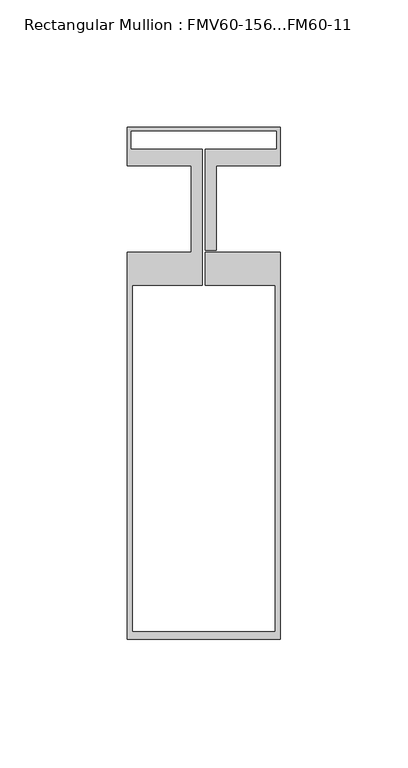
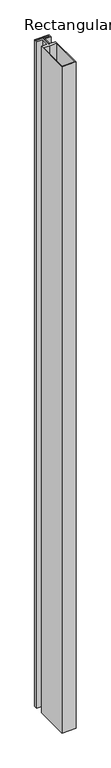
"""IFC4 building model written with IfcOpenShell, lengths in millimetres: member geometry, Rectangular Mullion : FMV60-156...FM60-11."""

import ifcopenshell
import ifcopenshell.guid

model = None  # the IFC model being written
_history = None  # IfcOwnerHistory: only IFC2X3 demands one
_inside = {}  # id of a spatial element -> (the spatial element, [elements in it])
_under = {}  # id of a project, library or spatial element -> (it, [spatial elements below it])
_declared = {}  # id of a project -> (the project, [libraries it declares])
_typed = {}  # id of a type object -> (the type object, [elements of that type])
_made_of = {}  # id of a material, layer set ... -> (it, [elements and type objects made of it])


def new_model(schema):
    """Start an empty IFC model of exactly this schema.

    Asked for "IFC4X3", IfcOpenShell would pick the latest addendum, in which some entities
    have other attributes; the version numbers below select the first issue.
    IFC2X3 requires an IfcOwnerHistory on every rooted entity: one is made here for all.
    """
    global model, _history
    if schema == "IFC4X3":
        model = ifcopenshell.file(schema_version=(4, 3, 0, 0))
    else:
        model = ifcopenshell.file(schema=schema)
    _inside.clear()
    _under.clear()
    _declared.clear()
    _typed.clear()
    _made_of.clear()
    _history = None
    if model.schema == "IFC2X3":
        org = make("IfcOrganization", Name="unknown")
        user = make(
            "IfcPersonAndOrganization",
            ThePerson=make("IfcPerson", FamilyName="unknown"),
            TheOrganization=org,
        )
        app = make(
            "IfcApplication",
            ApplicationDeveloper=org,
            Version="unknown",
            ApplicationFullName="unknown",
            ApplicationIdentifier="unknown",
        )
        _history = make(
            "IfcOwnerHistory",
            OwningUser=user,
            OwningApplication=app,
            ChangeAction="ADDED",
            CreationDate=0,
        )
    return model


def make(cls, **values):
    """One entity of the class cls with the attributes given. An attribute that is None is left unset."""
    return model.create_entity(
        cls, **{name: value for name, value in values.items() if value is not None}
    )


def rooted(cls, **values):
    """An entity with a GlobalId (a new one), such as an element, a storey or a relation."""
    return make(cls, GlobalId=ifcopenshell.guid.new(), OwnerHistory=_history, **values)


def si_unit(unit_type, name, prefix=None):
    """IfcSIUnit, for example si_unit("LENGTHUNIT", "METRE", prefix="MILLI")."""
    return make("IfcSIUnit", UnitType=unit_type, Prefix=prefix, Name=name)


def assignment(units):
    """IfcUnitAssignment: the units of a project."""
    return None if units is None else make("IfcUnitAssignment", Units=units)


def point(xyz):
    """IfcCartesianPoint."""
    return None if xyz is None else make("IfcCartesianPoint", Coordinates=xyz)


def direction(xyz):
    """IfcDirection."""
    return None if xyz is None else make("IfcDirection", DirectionRatios=xyz)


def frame(location, z_axis=None, x_axis=None):
    """IfcAxis2Placement3D, a coordinate frame: its origin and axes. An axis left out is left unset."""
    return make(
        "IfcAxis2Placement3D",
        Location=point(location),
        Axis=direction(z_axis),
        RefDirection=direction(x_axis),
    )


def origin():
    """The frame at (0, 0, 0) with its axes left unset."""
    return frame((0.0, 0.0, 0.0))


def place(relative_to, where):
    """IfcLocalPlacement: puts the frame where relative to a parent placement (None: the world)."""
    return make(
        "IfcLocalPlacement", PlacementRelTo=relative_to, RelativePlacement=where
    )


def context(
    kind, dimensions, precision=None, world=None, true_north=None, identifier=None
):
    """IfcGeometricRepresentationContext, for example the 3D "Model" context."""
    return make(
        "IfcGeometricRepresentationContext",
        ContextIdentifier=identifier,
        ContextType=kind,
        CoordinateSpaceDimension=dimensions,
        Precision=precision,
        WorldCoordinateSystem=world,
        TrueNorth=true_north,
    )


def project(units=None, contexts=None):
    """IfcProject with its units and contexts."""
    return rooted(
        "IfcProject",
        Name="project",
        RepresentationContexts=contexts,
        UnitsInContext=assignment(units),
    )


def spatial(cls, under=None, at=None, **own):
    """A site, building, storey or space (cls), placed at a placement, below another one or the project."""
    s = rooted(cls, ObjectPlacement=at, **own)
    if under is not None:
        _under.setdefault(under.id(), (under, []))[1].append(s)
    return s


def polyline(points):
    """IfcPolyline through the points."""
    return make("IfcPolyline", Points=[point(p) for p in points])


def outline(outer, holes=None, kind="AREA"):
    """IfcArbitraryClosedProfileDef: a profile drawn as a closed curve; with holes, ...WithVoids."""
    if holes is None:
        return make("IfcArbitraryClosedProfileDef", ProfileType=kind, OuterCurve=outer)
    return make(
        "IfcArbitraryProfileDefWithVoids",
        ProfileType=kind,
        OuterCurve=outer,
        InnerCurves=holes,
    )


def extrude(swept, where, along, depth):
    """IfcExtrudedAreaSolid: the profile swept, set in the frame where, extruded along a direction by depth."""
    return make(
        "IfcExtrudedAreaSolid",
        SweptArea=swept,
        Position=where,
        ExtrudedDirection=direction(along),
        Depth=depth,
    )


def shape(context_of_items, identifier, shape_type, items):
    """IfcShapeRepresentation: the items that make up one representation, for example the "Body"."""
    return make(
        "IfcShapeRepresentation",
        ContextOfItems=context_of_items,
        RepresentationIdentifier=identifier,
        RepresentationType=shape_type,
        Items=items,
    )


def source(mapping_origin, context_of_items, identifier, shape_type, items):
    """IfcRepresentationMap: a shape defined once, which mapped items show again and again."""
    return make(
        "IfcRepresentationMap",
        MappingOrigin=mapping_origin,
        MappedRepresentation=shape(context_of_items, identifier, shape_type, items),
    )


def transform(
    local_origin,
    x_axis=None,
    y_axis=None,
    z_axis=None,
    scale=None,
    scale2=None,
    scale3=None,
    uniform=True,
):
    """IfcCartesianTransformationOperator3D, or its non-uniform kind. x_axis, y_axis, z_axis: its Axis1, 2, 3."""
    if uniform:
        return make(
            "IfcCartesianTransformationOperator3D",
            Axis1=direction(x_axis),
            Axis2=direction(y_axis),
            LocalOrigin=point(local_origin),
            Scale=scale,
            Axis3=direction(z_axis),
        )
    return make(
        "IfcCartesianTransformationOperator3DnonUniform",
        Axis1=direction(x_axis),
        Axis2=direction(y_axis),
        LocalOrigin=point(local_origin),
        Scale=scale,
        Axis3=direction(z_axis),
        Scale2=scale2,
        Scale3=scale3,
    )


def mapped(mapping_source, mapping_target):
    """IfcMappedItem: shows the shape of a source again, moved by a transform."""
    return make(
        "IfcMappedItem", MappingSource=mapping_source, MappingTarget=mapping_target
    )


def made_of(thing, what):
    """Note that an element or type object is made of a material, layer set ...; save() writes the relation."""
    if what is not None:
        _made_of.setdefault(what.id(), (what, []))[1].append(thing)
    return thing


def element(
    cls,
    number,
    at=None,
    inside=None,
    cuts=None,
    type_object=None,
    material=None,
    context=None,
    identifier="Body",
    shape_type=None,
    held_by="IfcProductDefinitionShape",
    body=None,
    shapes=None,
    **own,
):
    """One element of the class cls, such as IfcWall. Its Tag is "e" and its number.

    at: its placement. inside: the storey or other place that contains it. cuts: it is an
    opening in that element (IfcRelVoidsElement). A single representation is given by context,
    identifier, shape_type and body (its items); several are given by shapes. held_by: the class
    of the entity that holds the representations. save() writes the other relations.
    """
    e = rooted(cls, Tag="e%d" % number, ObjectPlacement=at, **own)
    if body is not None:
        shapes = [shape(context, identifier, shape_type, body)]
    if shapes is not None:
        e.Representation = make(held_by, Representations=shapes)
    if inside is not None:
        _inside.setdefault(inside.id(), (inside, []))[1].append(e)
    if cuts is not None:
        rooted(
            "IfcRelVoidsElement", RelatingBuildingElement=cuts, RelatedOpeningElement=e
        )
    if type_object is not None:
        _typed.setdefault(type_object.id(), (type_object, []))[1].append(e)
    return made_of(e, material)


def aggregate(whole, parts):
    """IfcRelAggregates: a whole, such as a stair, and the parts it consists of."""
    return rooted("IfcRelAggregates", RelatingObject=whole, RelatedObjects=parts)


def save(model, path):
    """Write the relations noted so far, then the file.

    IfcRelAggregates (storeys below a building ...), IfcRelContainedInSpatialStructure (elements
    in a storey), IfcRelDefinesByType, IfcRelAssociatesMaterial and IfcRelDeclares: one each for
    every whole, place, type object, material and project.
    """
    for whole, parts in _under.values():
        aggregate(whole, parts)
    for where, things in _inside.values():
        rooted(
            "IfcRelContainedInSpatialStructure",
            RelatedElements=things,
            RelatingStructure=where,
        )
    for kind, things in _typed.values():
        rooted("IfcRelDefinesByType", RelatedObjects=things, RelatingType=kind)
    for what, things in _made_of.values():
        rooted("IfcRelAssociatesMaterial", RelatedObjects=things, RelatingMaterial=what)
    for by, libraries in _declared.values():
        rooted("IfcRelDeclares", RelatingContext=by, RelatedDefinitions=libraries)
    model.write(path)


def rectangular_mullion_fmv60_156_fm60_11_ceda7d93(model_context):
    return source(origin(), model_context, "Body", "SweptSolid", [
        extrude(outline(polyline([(30.0, -168.8990577), (-30.0, -168.8990577), (-30.0, -16.9), (-4.9995097, -16.9), (-4.9995097, 17.1), (-30.0, 17.1), (-30.0, 32.1038439), (30.0, 32.1038439), (30.0, 17.1), (5.0004903, 17.1), (5.0004903, -16.1), (0.5, -16.1), (0.5, 23.5439081), (28.7000412, 23.5439081), (28.7000412, 30.8038439), (-28.7000412, 30.8038439), (-28.7000412, 23.5439081), (-0.5, 23.5439081), (-0.5, -29.8945799), (-28.0, -29.8945799), (-28.0, -165.8990577), (28.0, -165.8990577), (28.0, -29.8945799), (0.5, -29.8945799), (0.5, -16.9), (30.0, -16.9), (30.0, -168.8990577)])), frame((0.0, 0.0, -3000.0), z_axis=(0.0, 0.0, 1.0), x_axis=(1.0, 0.0, 0.0)), (0.0, 0.0, 1.0), 3000.0),
    ])


if __name__ == "__main__":
    model = new_model("IFC4")
    model_context = context("Model", 3, world=origin())
    ifc_project = project(units=[si_unit("LENGTHUNIT", "METRE", prefix="MILLI")], contexts=[model_context])
    site = spatial("IfcSite", under=ifc_project)
    building = spatial("IfcBuilding", under=site)
    placement = place(None, origin())
    rectangular_mullion_fmv60_156_fm60_11_shape = rectangular_mullion_fmv60_156_fm60_11_ceda7d93(model_context)
    element("IfcMember", 1, ObjectType="Rectangular Mullion : FMV60-156...FM60-11", at=placement, inside=building, context=model_context, shape_type="MappedRepresentation", body=[
        mapped(rectangular_mullion_fmv60_156_fm60_11_shape, transform((0.0, 0.0, 0.0), x_axis=(1.0, 0.0, 0.0), y_axis=(0.0, 1.0, 0.0), z_axis=(0.0, 0.0, 1.0))),
    ])
    save(model, "model.ifc")
